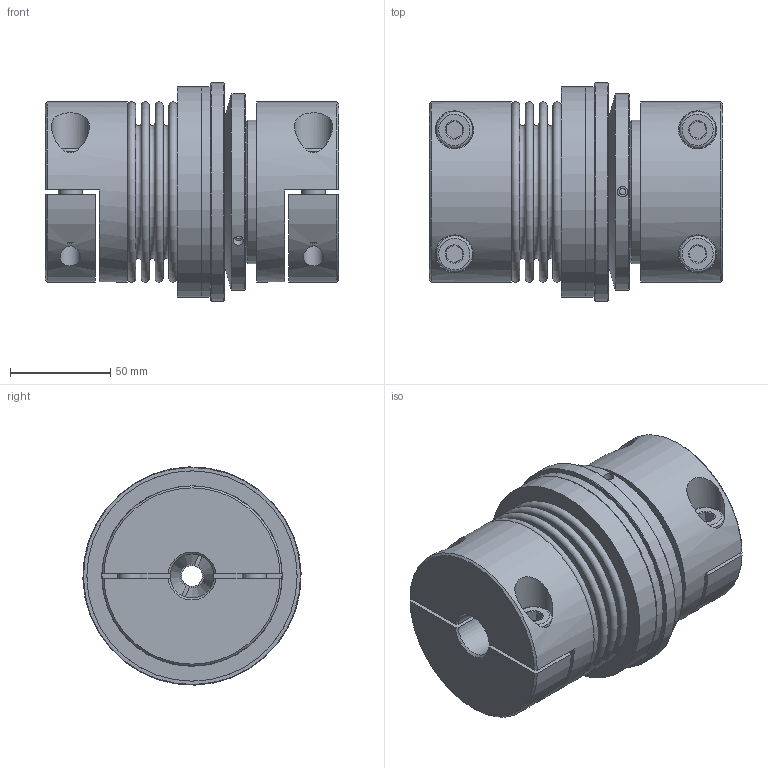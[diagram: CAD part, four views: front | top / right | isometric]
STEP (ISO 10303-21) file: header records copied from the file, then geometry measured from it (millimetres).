
FILE_DESCRIPTION( ( 'KBE1/14 - N7H8 - N14H7 - 98 Sh' ), '1' );
FILE_NAME( 'K:/Konstruktion/Fertigungszeichnungen/Überlastkupplung/KBK-B/KBK-BHH/200/KBK-BHH-200-146.stp', '14.12.2015', ( 'KBK-Antriebstechnik' ), ( 'KBK-Antriebstechnik' ), 'PSStep 16.0.42', 'Solid Edge St6', ' ' );
FILE_SCHEMA( ( 'AUTOMOTIVE_DESIGN { 1 0 10303 214 1 1 1 1 }' ) );
Length unit declared in the file: millimetre
Products named in the file (29): inafag_61810-2rsr-y_8vud90mjf0oaml813imzz750k; inafag_61810-2rsr-y_8vud90mjf0oaml813imzz750k_01; inafag_61810-2rsr-y_8vud90mjf0oaml813imzz750k_02; inafag_61810-2rsr-y_8vud90mjf0oaml813imzz750k_03; inafag_61810-2rsr-y_8vud90mjf0oaml813imzz750k_04; inafag_61810-2rsr-y_8vud90mjf0oaml813imzz750k_05; inafag_61810-2rsr-y_8vud90mjf0oaml813imzz750k_06; inafag_61810-2rsr-y_8vud90mjf0oaml813imzz750k_07; inafag_61810-2rsr-y_8vud90mjf0oaml813imzz750k_08; inafag_61810-2rsr-y_8vud90mjf0oaml813imzz750k_09; Stellring 200; Flansch 200; Flansch BK200; KBK L-P-200 Grundkörper-oa1; KBK L-P-200 Grundkörper-oa0; Druckring 200; KB4H8 - für 200; Spreiznabe KB8-150-oa2; KN4H-200-oa3; a_50; Assem1; BK200_Standard_0; KN4H-200; ISO EN DIN 4762 M12x35
Assembly tree (31 placements, depth 3):
  Assem1
    BK200_Standard_0
    KN4H-200
    KN4H-200
    ISO EN DIN 4762 M12x35  x4
    KBK L-P-200 Grundkörper-oa1
      KBK L-P-200 Grundkörper-oa0
    Stellring 200
      Stellring 200
    Druckring 200
      Druckring 200
    Flansch 200
      Flansch BK200
    a_50
      a_50
    inafag_61810-2rsr-y_8vud90mjf0oaml813imzz750k
      inafag_61810-2rsr-y_8vud90mjf0oaml813imzz750k_01
      inafag_61810-2rsr-y_8vud90mjf0oaml813imzz750k_02
      inafag_61810-2rsr-y_8vud90mjf0oaml813imzz750k_03
      inafag_61810-2rsr-y_8vud90mjf0oaml813imzz750k_04
      inafag_61810-2rsr-y_8vud90mjf0oaml813imzz750k_05
      inafag_61810-2rsr-y_8vud90mjf0oaml813imzz750k_06
      inafag_61810-2rsr-y_8vud90mjf0oaml813imzz750k_07
      inafag_61810-2rsr-y_8vud90mjf0oaml813imzz750k_08
      inafag_61810-2rsr-y_8vud90mjf0oaml813imzz750k_09
    KB4H8 - für 200
      Spreiznabe KB8-150-oa2
      KN4H-200-oa3
      KN4H-200-oa3
Bounding box: 146.45 x 108.98 x 108.98 mm (x, y, z)
Volume: 737665 mm3; surface area: 262040.6 mm2
Topology: 24 solids, 24 shells, 359 faces, 743 edges, 476 vertices
Faces by surface type: plane 144, cylinder 113, cone 64, torus 34, sphere 4
Full cylindrical faces by diameter (mm): 2.5 x2, 3.242 x3, 4.2 x4, 5.2 x6, 10.106 x4, 10.2 x3, 10.5 x1, 11 x4, 12 x8, 12.5 x4, 18 x5, 19 x4, 22 x2, 40 x1, 47 x1, 50 x3, 55.1 x4, 56.015 x1, 60 x1, 60.285 x1, 61.2 x2, 61.8 x4, 62 x1, 65 x2, 66 x2, 66.917 x1, 70.5 x1, 71 x2, 71.9 x1, 77 x1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
Entity records: 10426 total; most frequent: CARTESIAN_POINT 2727, DIRECTION 1276, ORIENTED_EDGE 826, AXIS2_PLACEMENT_3D 591, EDGE_LOOP 516, EDGE_CURVE 413, FACE_OUTER_BOUND 388, VERTEX_POINT 366
